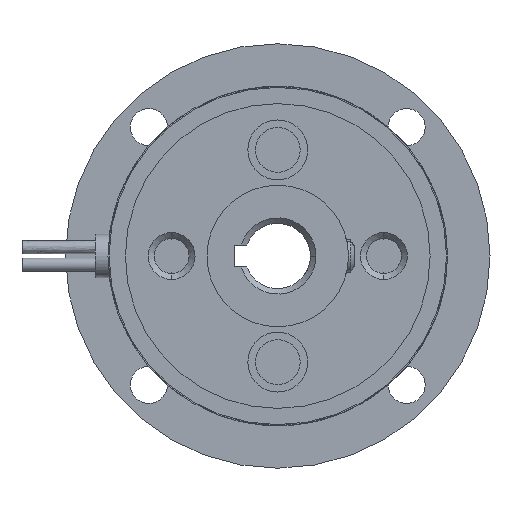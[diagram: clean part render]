
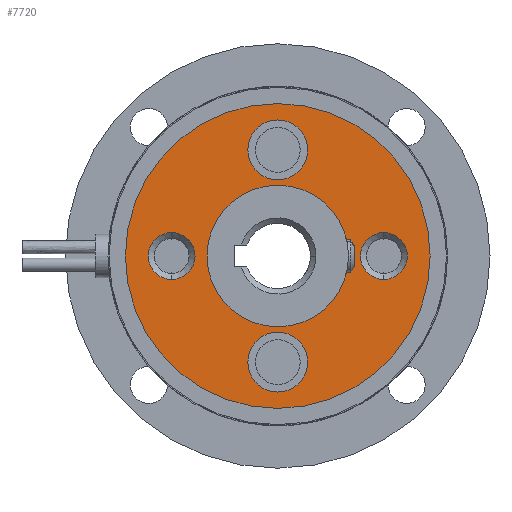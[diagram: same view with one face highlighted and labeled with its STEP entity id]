
A CAD part, left-side view. The second image highlights one B-rep face of the part: STEP entity #7720.
In plain terms, the highlighted planar face has unit normal (-1, 0, 0) as drawn and (0, 0, 1) by its records, which use the part's own axes.
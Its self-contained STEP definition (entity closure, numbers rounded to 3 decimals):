
#6711=CARTESIAN_POINT('',(-14.,0.,2.0));
#6712=VERTEX_POINT('',#6711);
#6728=CARTESIAN_POINT('',(14.,0.,2.0));
#6729=VERTEX_POINT('',#6728);
#6736=CARTESIAN_POINT('',(0.0,0.0,2.0));
#6737=DIRECTION('',(0.0,0.0,-1.0));
#6738=DIRECTION('',(-1.0,0.0,0.0));
#6739=AXIS2_PLACEMENT_3D('',#6736,#6737,#6738);
#6740=CIRCLE('',#6739,14.);
#6741=EDGE_CURVE('',#6729,#6712,#6740,.T.);
#6831=CARTESIAN_POINT('',(-6.5,0.,2.0));
#6832=VERTEX_POINT('',#6831);
#6841=CARTESIAN_POINT('',(6.5,0.,2.0));
#6842=VERTEX_POINT('',#6841);
#6843=CARTESIAN_POINT('',(0.0,0.0,2.0));
#6844=DIRECTION('',(0.0,0.0,-1.0));
#6845=DIRECTION('',(-1.0,0.0,0.0));
#6846=AXIS2_PLACEMENT_3D('',#6843,#6844,#6845);
#6847=CIRCLE('',#6846,6.5);
#6848=EDGE_CURVE('',#6842,#6832,#6847,.T.);
#6953=CARTESIAN_POINT('',(9.75,-2.15,2.0));
#6954=VERTEX_POINT('',#6953);
#6968=CARTESIAN_POINT('',(9.75,2.15,2.0));
#6969=VERTEX_POINT('',#6968);
#6976=CARTESIAN_POINT('',(9.75,0.,2.0));
#6977=DIRECTION('',(0.0,0.0,1.0));
#6978=DIRECTION('',(0.0,-1.0,0.0));
#6979=AXIS2_PLACEMENT_3D('',#6976,#6977,#6978);
#6980=CIRCLE('',#6979,2.15);
#6981=EDGE_CURVE('',#6969,#6954,#6980,.T.);
#7033=CARTESIAN_POINT('',(-9.75,2.15,2.0));
#7034=VERTEX_POINT('',#7033);
#7048=CARTESIAN_POINT('',(-9.75,-2.15,2.0));
#7049=VERTEX_POINT('',#7048);
#7056=CARTESIAN_POINT('',(-9.75,0.,2.0));
#7057=DIRECTION('',(0.0,0.0,1.0));
#7058=DIRECTION('',(0.0,1.0,0.0));
#7059=AXIS2_PLACEMENT_3D('',#7056,#7057,#7058);
#7060=CIRCLE('',#7059,2.15);
#7061=EDGE_CURVE('',#7049,#7034,#7060,.T.);
#7073=CARTESIAN_POINT('',(-2.75,-9.75,2.0));
#7074=VERTEX_POINT('',#7073);
#7090=CARTESIAN_POINT('',(2.75,-9.75,2.0));
#7091=VERTEX_POINT('',#7090);
#7098=CARTESIAN_POINT('',(0.,-9.75,2.0));
#7099=DIRECTION('',(0.0,0.0,-1.0));
#7100=DIRECTION('',(-1.0,0.0,0.0));
#7101=AXIS2_PLACEMENT_3D('',#7098,#7099,#7100);
#7102=CIRCLE('',#7101,2.75);
#7103=EDGE_CURVE('',#7074,#7091,#7102,.T.);
#7115=CARTESIAN_POINT('',(2.75,9.75,2.0));
#7116=VERTEX_POINT('',#7115);
#7132=CARTESIAN_POINT('',(-2.75,9.75,2.0));
#7133=VERTEX_POINT('',#7132);
#7140=CARTESIAN_POINT('',(0.,9.75,2.0));
#7141=DIRECTION('',(0.0,0.0,-1.0));
#7142=DIRECTION('',(1.0,0.0,0.0));
#7143=AXIS2_PLACEMENT_3D('',#7140,#7141,#7142);
#7144=CIRCLE('',#7143,2.75);
#7145=EDGE_CURVE('',#7116,#7133,#7144,.T.);
#7625=CARTESIAN_POINT('',(0.,9.75,2.0));
#7626=DIRECTION('',(0.0,0.0,-1.0));
#7627=DIRECTION('',(1.0,0.0,0.0));
#7628=AXIS2_PLACEMENT_3D('',#7625,#7626,#7627);
#7629=CIRCLE('',#7628,2.75);
#7630=EDGE_CURVE('',#7133,#7116,#7629,.T.);
#7643=CARTESIAN_POINT('',(0.,-9.75,2.0));
#7644=DIRECTION('',(0.0,0.0,-1.0));
#7645=DIRECTION('',(-1.0,0.0,0.0));
#7646=AXIS2_PLACEMENT_3D('',#7643,#7644,#7645);
#7647=CIRCLE('',#7646,2.75);
#7648=EDGE_CURVE('',#7091,#7074,#7647,.T.);
#7661=CARTESIAN_POINT('',(-9.75,0.,2.0));
#7662=DIRECTION('',(0.0,0.0,1.0));
#7663=DIRECTION('',(0.0,1.0,0.0));
#7664=AXIS2_PLACEMENT_3D('',#7661,#7662,#7663);
#7665=CIRCLE('',#7664,2.15);
#7666=EDGE_CURVE('',#7034,#7049,#7665,.T.);
#7673=CARTESIAN_POINT('',(0.0,0.0,2.0));
#7674=DIRECTION('',(0.0,0.0,-1.0));
#7675=DIRECTION('',(-1.0,0.0,0.0));
#7676=AXIS2_PLACEMENT_3D('',#7673,#7674,#7675);
#7677=PLANE('',#7676);
#7678=ORIENTED_EDGE('',*,*,#6741,.F.);
#7679=CARTESIAN_POINT('',(0.0,0.0,2.0));
#7680=DIRECTION('',(0.0,0.0,-1.0));
#7681=DIRECTION('',(-1.0,0.0,0.0));
#7682=AXIS2_PLACEMENT_3D('',#7679,#7680,#7681);
#7683=CIRCLE('',#7682,14.);
#7684=EDGE_CURVE('',#6712,#6729,#7683,.T.);
#7685=ORIENTED_EDGE('',*,*,#7684,.F.);
#7686=EDGE_LOOP('',(#7678,#7685));
#7687=FACE_OUTER_BOUND('',#7686,.T.);
#7688=ORIENTED_EDGE('',*,*,#7630,.T.);
#7689=ORIENTED_EDGE('',*,*,#7145,.T.);
#7690=EDGE_LOOP('',(#7688,#7689));
#7691=FACE_BOUND('',#7690,.T.);
#7692=ORIENTED_EDGE('',*,*,#7648,.T.);
#7693=ORIENTED_EDGE('',*,*,#7103,.T.);
#7694=EDGE_LOOP('',(#7692,#7693));
#7695=FACE_BOUND('',#7694,.T.);
#7696=ORIENTED_EDGE('',*,*,#6981,.F.);
#7697=CARTESIAN_POINT('',(9.75,0.,2.0));
#7698=DIRECTION('',(0.0,0.0,1.0));
#7699=DIRECTION('',(0.0,-1.0,0.0));
#7700=AXIS2_PLACEMENT_3D('',#7697,#7698,#7699);
#7701=CIRCLE('',#7700,2.15);
#7702=EDGE_CURVE('',#6954,#6969,#7701,.T.);
#7703=ORIENTED_EDGE('',*,*,#7702,.F.);
#7704=EDGE_LOOP('',(#7696,#7703));
#7705=FACE_BOUND('',#7704,.T.);
#7706=ORIENTED_EDGE('',*,*,#6848,.T.);
#7707=CARTESIAN_POINT('',(0.0,0.0,2.0));
#7708=DIRECTION('',(0.0,0.0,-1.0));
#7709=DIRECTION('',(-1.0,0.0,0.0));
#7710=AXIS2_PLACEMENT_3D('',#7707,#7708,#7709);
#7711=CIRCLE('',#7710,6.5);
#7712=EDGE_CURVE('',#6832,#6842,#7711,.T.);
#7713=ORIENTED_EDGE('',*,*,#7712,.T.);
#7714=EDGE_LOOP('',(#7706,#7713));
#7715=FACE_BOUND('',#7714,.T.);
#7716=ORIENTED_EDGE('',*,*,#7061,.F.);
#7717=ORIENTED_EDGE('',*,*,#7666,.F.);
#7718=EDGE_LOOP('',(#7716,#7717));
#7719=FACE_BOUND('',#7718,.T.);
#7720=ADVANCED_FACE('',(#7687,#7691,#7695,#7705,#7715,#7719),#7677,.F.);
